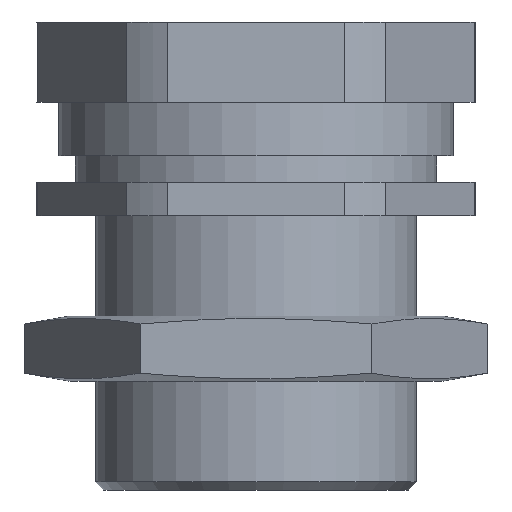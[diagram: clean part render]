
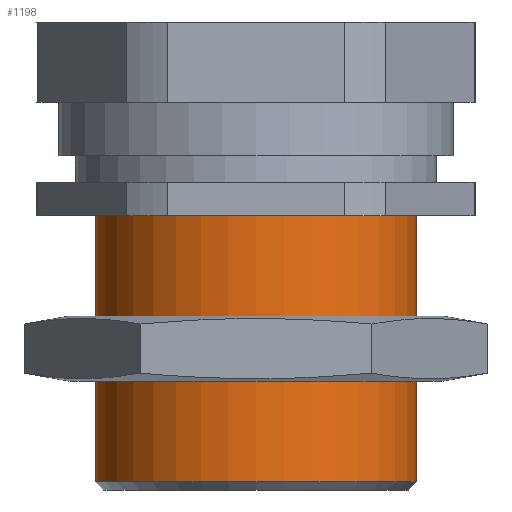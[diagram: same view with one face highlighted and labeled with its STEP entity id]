
A CAD part, front view. The second image highlights one B-rep face of the part: STEP entity #1198.
In plain terms, the highlighted cylindrical face has radius 12 mm (diameter 24 mm), a partial arc.
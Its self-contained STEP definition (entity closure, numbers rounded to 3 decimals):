
#1 = CYLINDRICAL_SURFACE ( 'NONE', #281, 12. ) ;
#23 = FACE_OUTER_BOUND ( 'NONE', #1217, .T. ) ;
#61 = CARTESIAN_POINT ( 'NONE',  ( -12., 0., 20.5 ) ) ;
#104 = VECTOR ( 'NONE', #893, 1000. ) ;
#108 = LINE ( 'NONE', #61, #104 ) ;
#118 = CIRCLE ( 'NONE', #245, 12. ) ;
#182 = CARTESIAN_POINT ( 'NONE',  ( -12., 0., 0.6 ) ) ;
#233 = DIRECTION ( 'NONE',  ( 1., 0., 0. ) ) ;
#241 = EDGE_CURVE ( 'NONE', #631, #511, #483, .T. ) ;
#245 = AXIS2_PLACEMENT_3D ( 'NONE', #1190, #1829, #1635 ) ;
#281 = AXIS2_PLACEMENT_3D ( 'NONE', #1389, #1397, #1021 ) ;
#286 = DIRECTION ( 'NONE',  ( 0., 0., 1. ) ) ;
#483 = CIRCLE ( 'NONE', #629, 12. ) ;
#511 = VERTEX_POINT ( 'NONE', #1371 ) ;
#629 = AXIS2_PLACEMENT_3D ( 'NONE', #650, #286, #233 ) ;
#631 = VERTEX_POINT ( 'NONE', #1348 ) ;
#650 = CARTESIAN_POINT ( 'NONE',  ( 0., 0., 20.5 ) ) ;
#714 = DIRECTION ( 'NONE',  ( 0., 0., -1. ) ) ;
#794 = ORIENTED_EDGE ( 'NONE', *, *, #1506, .F. ) ;
#827 = ORIENTED_EDGE ( 'NONE', *, *, #1030, .T. ) ;
#893 = DIRECTION ( 'NONE',  ( 0., 0., -1. ) ) ;
#1020 = CARTESIAN_POINT ( 'NONE',  ( 12., 0., 20.5 ) ) ;
#1021 = DIRECTION ( 'NONE',  ( -1., 0., 0. ) ) ;
#1024 = EDGE_CURVE ( 'NONE', #1380, #1571, #118, .T. ) ;
#1030 = EDGE_CURVE ( 'NONE', #631, #1380, #108, .T. ) ;
#1190 = CARTESIAN_POINT ( 'NONE',  ( 0., 0., 0.6 ) ) ;
#1198 = ADVANCED_FACE ( 'NONE', ( #23 ), #1, .T. ) ;
#1217 = EDGE_LOOP ( 'NONE', ( #794, #1272, #827, #1897 ) ) ;
#1272 = ORIENTED_EDGE ( 'NONE', *, *, #241, .F. ) ;
#1348 = CARTESIAN_POINT ( 'NONE',  ( -12., 0., 20.5 ) ) ;
#1371 = CARTESIAN_POINT ( 'NONE',  ( 12., 0., 20.5 ) ) ;
#1380 = VERTEX_POINT ( 'NONE', #182 ) ;
#1389 = CARTESIAN_POINT ( 'NONE',  ( 0., 0., 20.5 ) ) ;
#1397 = DIRECTION ( 'NONE',  ( 0., 0., -1. ) ) ;
#1501 = CARTESIAN_POINT ( 'NONE',  ( 12., 0., 0.6 ) ) ;
#1506 = EDGE_CURVE ( 'NONE', #511, #1571, #1772, .T. ) ;
#1571 = VERTEX_POINT ( 'NONE', #1501 ) ;
#1635 = DIRECTION ( 'NONE',  ( 1., 0., 0. ) ) ;
#1772 = LINE ( 'NONE', #1020, #1787 ) ;
#1787 = VECTOR ( 'NONE', #714, 1000. ) ;
#1829 = DIRECTION ( 'NONE',  ( 0., 0., 1. ) ) ;
#1897 = ORIENTED_EDGE ( 'NONE', *, *, #1024, .T. ) ;
